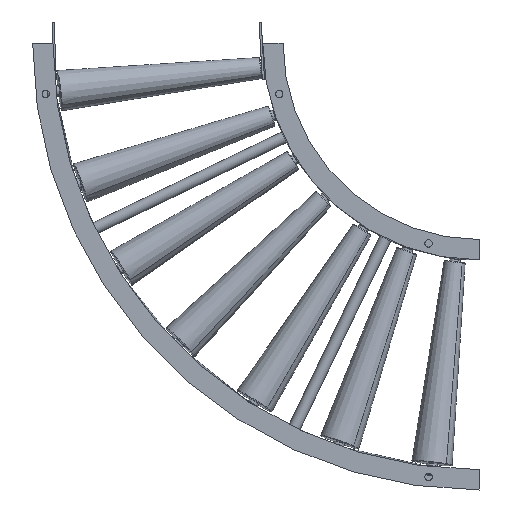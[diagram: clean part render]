
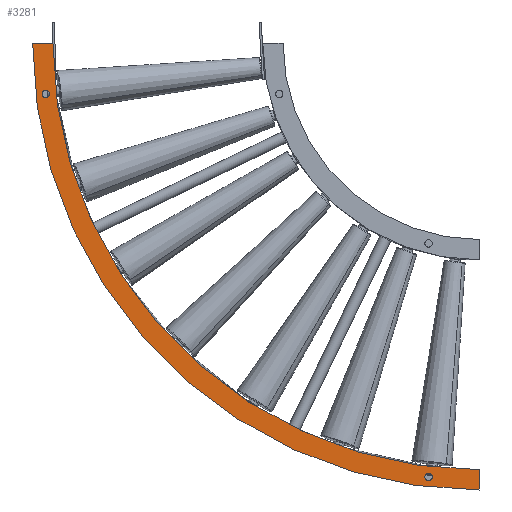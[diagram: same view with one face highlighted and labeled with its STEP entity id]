
A CAD part, front view. The second image highlights one B-rep face of the part: STEP entity #3281.
In plain terms, the highlighted planar face has unit normal (0, -1, 0).
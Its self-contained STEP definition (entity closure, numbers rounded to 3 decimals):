
#36 = ORIENTED_EDGE ( 'NONE', *, *, #15517, .F. ) ;
#95 = CARTESIAN_POINT ( 'NONE',  ( 136.029, -42.314, -475.125 ) ) ;
#140 = CARTESIAN_POINT ( 'NONE',  ( 211.029, -42.314, -470. ) ) ;
#1276 = VERTEX_POINT ( 'NONE', #95 ) ;
#1710 = CARTESIAN_POINT ( 'NONE',  ( 211.029, -42.314, 160. ) ) ;
#1864 = DIRECTION ( 'NONE',  ( 0., 0., 1. ) ) ;
#1979 = CARTESIAN_POINT ( 'NONE',  ( -429.595, -42.314, 79.5 ) ) ;
#2040 = CARTESIAN_POINT ( 'NONE',  ( 211.029, -42.314, 160. ) ) ;
#2127 = DIRECTION ( 'NONE',  ( 0., 1., 0. ) ) ;
#2369 = CARTESIAN_POINT ( 'NONE',  ( -429.595, -42.314, 85. ) ) ;
#2464 = CARTESIAN_POINT ( 'NONE',  ( -429.595, -42.314, 90.5 ) ) ;
#2505 = VERTEX_POINT ( 'NONE', #10226 ) ;
#2601 = EDGE_LOOP ( 'NONE', ( #12486, #15426 ) ) ;
#3197 = FACE_BOUND ( 'NONE', #2601, .T. ) ;
#3281 = ADVANCED_FACE ( 'NONE', ( #3197, #12279, #6066 ), #14738, .F. ) ;
#3420 = CARTESIAN_POINT ( 'NONE',  ( -448.971, -42.314, 160. ) ) ;
#3606 = AXIS2_PLACEMENT_3D ( 'NONE', #1710, #7864, #1864 ) ;
#3747 = ORIENTED_EDGE ( 'NONE', *, *, #6833, .T. ) ;
#3761 = ORIENTED_EDGE ( 'NONE', *, *, #7936, .T. ) ;
#4093 = AXIS2_PLACEMENT_3D ( 'NONE', #14119, #10528, #5357 ) ;
#4367 = VECTOR ( 'NONE', #4905, 1000. ) ;
#4374 = CARTESIAN_POINT ( 'NONE',  ( 136.029, -42.314, -480.625 ) ) ;
#4461 = EDGE_CURVE ( 'NONE', #13004, #2505, #14639, .T. ) ;
#4842 = DIRECTION ( 'NONE',  ( 0., -1., 0. ) ) ;
#4905 = DIRECTION ( 'NONE',  ( 0., 0., 1. ) ) ;
#5357 = DIRECTION ( 'NONE',  ( 0., 0., 1. ) ) ;
#5663 = ORIENTED_EDGE ( 'NONE', *, *, #4461, .F. ) ;
#5737 = DIRECTION ( 'NONE',  ( 0., 0., 1. ) ) ;
#5790 = EDGE_LOOP ( 'NONE', ( #3747, #3761, #5663, #5962 ) ) ;
#5962 = ORIENTED_EDGE ( 'NONE', *, *, #6016, .F. ) ;
#6016 = EDGE_CURVE ( 'NONE', #10571, #13004, #10641, .T. ) ;
#6019 = AXIS2_PLACEMENT_3D ( 'NONE', #4374, #15666, #13222 ) ;
#6066 = FACE_OUTER_BOUND ( 'NONE', #5790, .T. ) ;
#6261 = VERTEX_POINT ( 'NONE', #1979 ) ;
#6277 = CIRCLE ( 'NONE', #7589, 5.5 ) ;
#6569 = AXIS2_PLACEMENT_3D ( 'NONE', #2040, #2127, #5737 ) ;
#6833 = EDGE_CURVE ( 'NONE', #10571, #13224, #7535, .T. ) ;
#7174 = DIRECTION ( 'NONE',  ( 0., -1., 0. ) ) ;
#7535 = LINE ( 'NONE', #12271, #4367 ) ;
#7589 = AXIS2_PLACEMENT_3D ( 'NONE', #13381, #7174, #14605 ) ;
#7619 = EDGE_LOOP ( 'NONE', ( #36, #12742 ) ) ;
#7659 = VECTOR ( 'NONE', #8517, 1000. ) ;
#7864 = DIRECTION ( 'NONE',  ( 0., 1., 0. ) ) ;
#7936 = EDGE_CURVE ( 'NONE', #13224, #2505, #14069, .T. ) ;
#8098 = CARTESIAN_POINT ( 'NONE',  ( 211.029, -42.314, -500. ) ) ;
#8181 = CARTESIAN_POINT ( 'NONE',  ( 136.029, -42.314, -486.125 ) ) ;
#8517 = DIRECTION ( 'NONE',  ( 1., 0., 0. ) ) ;
#8611 = EDGE_CURVE ( 'NONE', #15356, #6261, #9383, .T. ) ;
#9383 = CIRCLE ( 'NONE', #11230, 5.5 ) ;
#9624 = EDGE_CURVE ( 'NONE', #1276, #13534, #11500, .T. ) ;
#9644 = CARTESIAN_POINT ( 'NONE',  ( 136.029, -42.314, -480.625 ) ) ;
#9812 = EDGE_CURVE ( 'NONE', #6261, #15356, #6277, .T. ) ;
#10226 = CARTESIAN_POINT ( 'NONE',  ( -418.971, -42.314, 160. ) ) ;
#10528 = DIRECTION ( 'NONE',  ( 0., 1., 0. ) ) ;
#10571 = VERTEX_POINT ( 'NONE', #8098 ) ;
#10641 = CIRCLE ( 'NONE', #4093, 660. ) ;
#11197 = DIRECTION ( 'NONE',  ( 0., -1., 0. ) ) ;
#11230 = AXIS2_PLACEMENT_3D ( 'NONE', #2369, #4842, #12283 ) ;
#11500 = CIRCLE ( 'NONE', #6019, 5.5 ) ;
#12271 = CARTESIAN_POINT ( 'NONE',  ( 211.029, -42.314, -500. ) ) ;
#12279 = FACE_BOUND ( 'NONE', #7619, .T. ) ;
#12283 = DIRECTION ( 'NONE',  ( 0., 0., -1. ) ) ;
#12459 = CARTESIAN_POINT ( 'NONE',  ( -448.971, -42.314, 160. ) ) ;
#12486 = ORIENTED_EDGE ( 'NONE', *, *, #9812, .F. ) ;
#12742 = ORIENTED_EDGE ( 'NONE', *, *, #9624, .F. ) ;
#13004 = VERTEX_POINT ( 'NONE', #12459 ) ;
#13222 = DIRECTION ( 'NONE',  ( 0., 0., -1. ) ) ;
#13224 = VERTEX_POINT ( 'NONE', #140 ) ;
#13381 = CARTESIAN_POINT ( 'NONE',  ( -429.595, -42.314, 85. ) ) ;
#13534 = VERTEX_POINT ( 'NONE', #8181 ) ;
#14069 = CIRCLE ( 'NONE', #3606, 630. ) ;
#14119 = CARTESIAN_POINT ( 'NONE',  ( 211.029, -42.314, 160. ) ) ;
#14213 = CIRCLE ( 'NONE', #14476, 5.5 ) ;
#14476 = AXIS2_PLACEMENT_3D ( 'NONE', #9644, #11197, #16179 ) ;
#14605 = DIRECTION ( 'NONE',  ( 0., 0., -1. ) ) ;
#14639 = LINE ( 'NONE', #3420, #7659 ) ;
#14738 = PLANE ( 'NONE',  #6569 ) ;
#15356 = VERTEX_POINT ( 'NONE', #2464 ) ;
#15426 = ORIENTED_EDGE ( 'NONE', *, *, #8611, .F. ) ;
#15517 = EDGE_CURVE ( 'NONE', #13534, #1276, #14213, .T. ) ;
#15666 = DIRECTION ( 'NONE',  ( 0., -1., 0. ) ) ;
#16179 = DIRECTION ( 'NONE',  ( 0., 0., -1. ) ) ;
